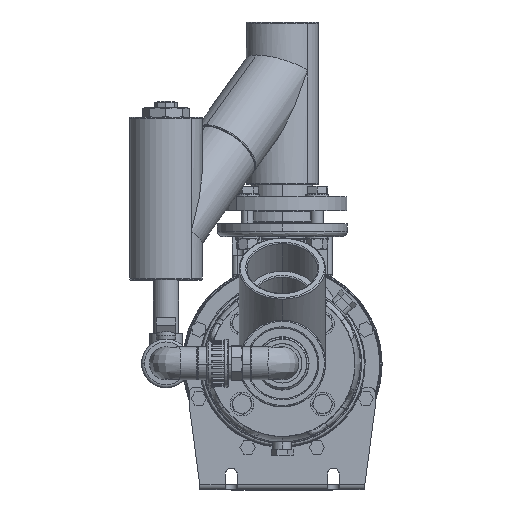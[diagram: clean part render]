
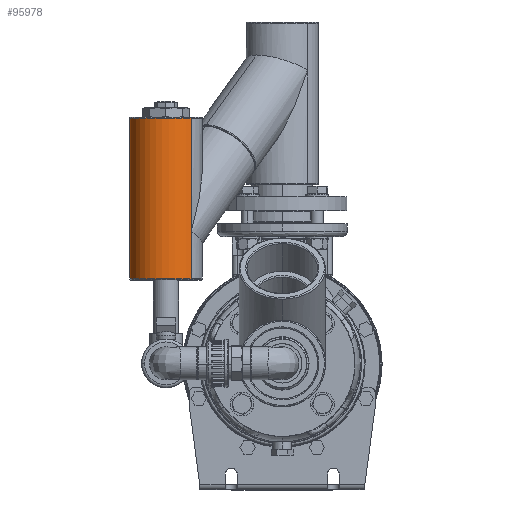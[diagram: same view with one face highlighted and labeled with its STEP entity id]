
A CAD part, top view. The second image highlights one B-rep face of the part: STEP entity #95978.
In plain terms, the highlighted cylindrical face has radius 46 mm (diameter 92 mm), a partial arc.
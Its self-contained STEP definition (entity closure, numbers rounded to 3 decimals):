
#22639 = VERTEX_POINT ( 'NONE', #91212 ) ;
#22727 = EDGE_CURVE ( 'NONE', #27328, #22639, #91277, .T. ) ;
#22753 = EDGE_CURVE ( 'NONE', #22800, #29568, #91265, .T. ) ;
#22789 = EDGE_CURVE ( 'NONE', #29538, #22800, #91257, .T. ) ;
#22800 = VERTEX_POINT ( 'NONE', #91392 ) ;
#22949 = EDGE_CURVE ( 'NONE', #22639, #29560, #91819, .T. ) ;
#27328 = VERTEX_POINT ( 'NONE', #62606 ) ;
#29534 = EDGE_CURVE ( 'NONE', #29538, #27328, #65218, .T. ) ;
#29538 = VERTEX_POINT ( 'NONE', #65222 ) ;
#29556 = EDGE_CURVE ( 'NONE', #29560, #29568, #65223, .T. ) ;
#29560 = VERTEX_POINT ( 'NONE', #65206 ) ;
#29568 = VERTEX_POINT ( 'NONE', #65248 ) ;
#62606 = CARTESIAN_POINT ( 'NONE',  ( -563.833, 423.726, 392.942 ) ) ;
#65201 = DIRECTION ( 'NONE',  ( -0.697, 0., -0.717 ) ) ;
#65202 = DIRECTION ( 'NONE',  ( 0., -1., 0. ) ) ;
#65204 = CARTESIAN_POINT ( 'NONE',  ( -531.758, 423.726, 425.914 ) ) ;
#65205 = AXIS2_PLACEMENT_3D ( 'NONE', #65204, #65202, #65201 ) ;
#65206 = CARTESIAN_POINT ( 'NONE',  ( -563.833, 219.276, 392.942 ) ) ;
#65218 = CIRCLE ( 'NONE', #65205, 46. ) ;
#65222 = CARTESIAN_POINT ( 'NONE',  ( -499.683, 423.726, 458.887 ) ) ;
#65223 = CIRCLE ( 'NONE', #65251, 46. ) ;
#65248 = CARTESIAN_POINT ( 'NONE',  ( -499.683, 219.276, 458.887 ) ) ;
#65249 = DIRECTION ( 'NONE',  ( -0.697, 0., -0.717 ) ) ;
#65250 = DIRECTION ( 'NONE',  ( 0., 1., 0. ) ) ;
#65251 = AXIS2_PLACEMENT_3D ( 'NONE', #65260, #65250, #65249 ) ;
#65260 = CARTESIAN_POINT ( 'NONE',  ( -531.758, 219.276, 425.914 ) ) ;
#69158 = EDGE_LOOP ( 'NONE', ( #70983, #95707, #95758, #95767, #95756, #106529 ) ) ;
#70983 = ORIENTED_EDGE ( 'NONE', *, *, #22789, .F. ) ;
#91212 = CARTESIAN_POINT ( 'NONE',  ( -563.833, 279.001, 392.942 ) ) ;
#91257 = LINE ( 'NONE', #91313, #91311 ) ;
#91261 = DIRECTION ( 'NONE',  ( 0., -1., 0. ) ) ;
#91262 = VECTOR ( 'NONE', #91261, 1000. ) ;
#91264 = CARTESIAN_POINT ( 'NONE',  ( -499.683, 321.501, 458.887 ) ) ;
#91265 = LINE ( 'NONE', #91264, #91262 ) ;
#91273 = DIRECTION ( 'NONE',  ( 0., -1., 0. ) ) ;
#91274 = VECTOR ( 'NONE', #91273, 1000. ) ;
#91276 = CARTESIAN_POINT ( 'NONE',  ( -563.833, 321.501, 392.942 ) ) ;
#91277 = LINE ( 'NONE', #91276, #91274 ) ;
#91309 = DIRECTION ( 'NONE',  ( 0., -1., 0. ) ) ;
#91311 = VECTOR ( 'NONE', #91309, 1000. ) ;
#91313 = CARTESIAN_POINT ( 'NONE',  ( -499.683, 321.501, 458.887 ) ) ;
#91392 = CARTESIAN_POINT ( 'NONE',  ( -499.683, 279.001, 458.887 ) ) ;
#91815 = DIRECTION ( 'NONE',  ( 0., -1., 0. ) ) ;
#91816 = VECTOR ( 'NONE', #91815, 1000. ) ;
#91818 = CARTESIAN_POINT ( 'NONE',  ( -563.833, 321.501, 392.942 ) ) ;
#91819 = LINE ( 'NONE', #91818, #91816 ) ;
#95707 = ORIENTED_EDGE ( 'NONE', *, *, #29534, .T. ) ;
#95756 = ORIENTED_EDGE ( 'NONE', *, *, #29556, .T. ) ;
#95758 = ORIENTED_EDGE ( 'NONE', *, *, #22727, .T. ) ;
#95767 = ORIENTED_EDGE ( 'NONE', *, *, #22949, .T. ) ;
#95978 = ADVANCED_FACE ( 'NONE', ( #97829 ), #97828, .T. ) ;
#97821 = DIRECTION ( 'NONE',  ( -0.697, 0., -0.717 ) ) ;
#97822 = DIRECTION ( 'NONE',  ( 0., -1., 0. ) ) ;
#97823 = CARTESIAN_POINT ( 'NONE',  ( -531.758, 321.501, 425.914 ) ) ;
#97827 = AXIS2_PLACEMENT_3D ( 'NONE', #97823, #97822, #97821 ) ;
#97828 = CYLINDRICAL_SURFACE ( 'NONE', #97827, 46. ) ;
#97829 = FACE_OUTER_BOUND ( 'NONE', #69158, .T. ) ;
#106529 = ORIENTED_EDGE ( 'NONE', *, *, #22753, .F. ) ;
